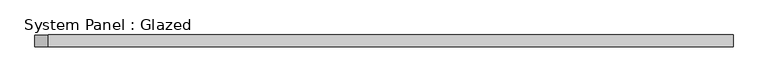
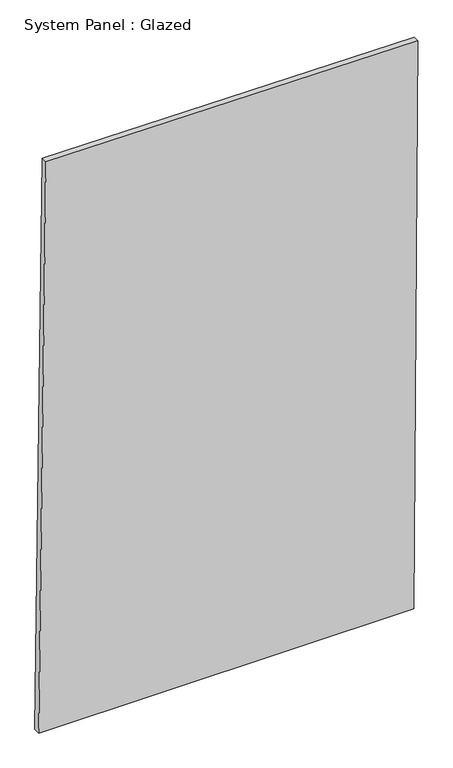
"""IFC4 building model written with IfcOpenShell, lengths in millimetres: plate geometry, System Panel : Glazed."""

from ifc_helpers import new_model, si_unit, frame, origin, place, context, project, spatial, polyline, outline, extrude, source, transform, mapped, element, save


def system_panel_glazed_cf6f0135(model_context):
    return source(origin(), model_context, "Body", "SweptSolid", [
        extrude(outline(polyline([(0.0, -734.4581912), (0.0, 718.7894303), (2320.7173175, 734.4581912), (2329.3108645, -706.2984825), (0.0, -734.4581912)])), frame((0.0, -49.5, 0.0), z_axis=(0.0, 1.0, 0.0), x_axis=(0.0, 0.0, 1.0)), (0.0, 0.0, 1.0), 25.0),
    ])


if __name__ == "__main__":
    model = new_model("IFC4")
    model_context = context("Model", 3, world=origin())
    ifc_project = project(units=[si_unit("LENGTHUNIT", "METRE", prefix="MILLI")], contexts=[model_context])
    site = spatial("IfcSite", under=ifc_project)
    building = spatial("IfcBuilding", under=site)
    placement = place(None, origin())
    system_panel_glazed_shape = system_panel_glazed_cf6f0135(model_context)
    element("IfcPlate", 1, ObjectType="System Panel : Glazed", at=placement, inside=building, context=model_context, shape_type="MappedRepresentation", body=[
        mapped(system_panel_glazed_shape, transform((0.0, 0.0, 0.0), x_axis=(1.0, 0.0, 0.0), y_axis=(0.0, 1.0, 0.0), z_axis=(0.0, 0.0, 1.0))),
    ])
    save(model, "model.ifc")
